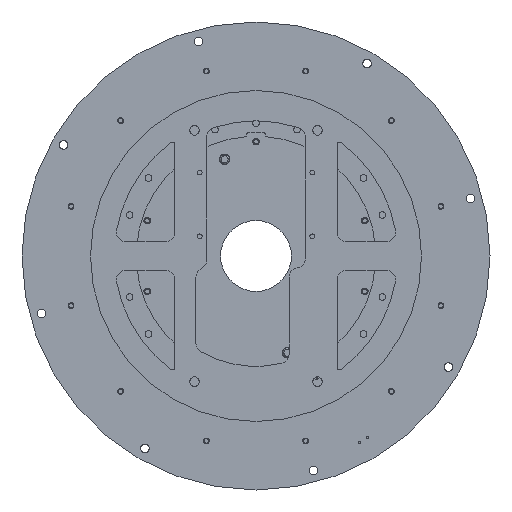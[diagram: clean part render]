
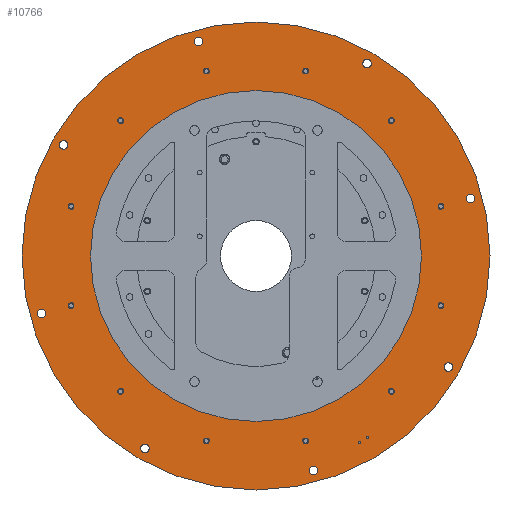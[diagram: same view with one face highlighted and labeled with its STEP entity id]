
A CAD part, front view. The second image highlights one B-rep face of the part: STEP entity #10766.
In plain terms, the highlighted planar face has unit normal (0, -1, 0).
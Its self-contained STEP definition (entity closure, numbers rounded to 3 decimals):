
#818=FACE_BOUND('',#2519,.T.);
#819=FACE_BOUND('',#2520,.T.);
#820=FACE_BOUND('',#2521,.T.);
#821=FACE_BOUND('',#2522,.T.);
#822=FACE_BOUND('',#2523,.T.);
#823=FACE_BOUND('',#2524,.T.);
#824=FACE_BOUND('',#2525,.T.);
#825=FACE_BOUND('',#2526,.T.);
#826=FACE_BOUND('',#2527,.T.);
#827=FACE_BOUND('',#2528,.T.);
#828=FACE_BOUND('',#2529,.T.);
#829=FACE_BOUND('',#2530,.T.);
#830=FACE_BOUND('',#2531,.T.);
#831=FACE_BOUND('',#2532,.T.);
#832=FACE_BOUND('',#2533,.T.);
#833=FACE_BOUND('',#2534,.T.);
#834=FACE_BOUND('',#2535,.T.);
#835=FACE_BOUND('',#2536,.T.);
#836=FACE_BOUND('',#2537,.T.);
#837=FACE_BOUND('',#2538,.T.);
#838=FACE_BOUND('',#2539,.T.);
#839=FACE_BOUND('',#2540,.T.);
#840=FACE_BOUND('',#2541,.T.);
#1022=PLANE('',#12200);
#1725=FACE_OUTER_BOUND('',#2518,.T.);
#2518=EDGE_LOOP('',(#9101));
#2519=EDGE_LOOP('',(#9102));
#2520=EDGE_LOOP('',(#9103));
#2521=EDGE_LOOP('',(#9104));
#2522=EDGE_LOOP('',(#9105));
#2523=EDGE_LOOP('',(#9106));
#2524=EDGE_LOOP('',(#9107));
#2525=EDGE_LOOP('',(#9108));
#2526=EDGE_LOOP('',(#9109));
#2527=EDGE_LOOP('',(#9110));
#2528=EDGE_LOOP('',(#9111));
#2529=EDGE_LOOP('',(#9112));
#2530=EDGE_LOOP('',(#9113));
#2531=EDGE_LOOP('',(#9114));
#2532=EDGE_LOOP('',(#9115));
#2533=EDGE_LOOP('',(#9116));
#2534=EDGE_LOOP('',(#9117));
#2535=EDGE_LOOP('',(#9118));
#2536=EDGE_LOOP('',(#9119));
#2537=EDGE_LOOP('',(#9120));
#2538=EDGE_LOOP('',(#9121));
#2539=EDGE_LOOP('',(#9122));
#2540=EDGE_LOOP('',(#9123));
#2541=EDGE_LOOP('',(#9124));
#4558=CIRCLE('',#12129,2.459);
#4560=CIRCLE('',#12132,2.459);
#4562=CIRCLE('',#12135,5.053);
#4564=CIRCLE('',#12138,5.053);
#4566=CIRCLE('',#12141,5.053);
#4568=CIRCLE('',#12144,5.053);
#4570=CIRCLE('',#12147,5.053);
#4572=CIRCLE('',#12150,5.053);
#4574=CIRCLE('',#12153,5.053);
#4576=CIRCLE('',#12156,5.053);
#4578=CIRCLE('',#12159,5.053);
#4580=CIRCLE('',#12162,5.053);
#4582=CIRCLE('',#12165,5.053);
#4584=CIRCLE('',#12168,5.053);
#4586=CIRCLE('',#12171,9.);
#4588=CIRCLE('',#12174,9.);
#4590=CIRCLE('',#12177,9.);
#4592=CIRCLE('',#12180,9.);
#4594=CIRCLE('',#12183,9.);
#4596=CIRCLE('',#12186,9.);
#4598=CIRCLE('',#12189,9.);
#4600=CIRCLE('',#12192,9.);
#4602=CIRCLE('',#12195,350.);
#4604=CIRCLE('',#12198,495.);
#5398=VERTEX_POINT('',#17983);
#5400=VERTEX_POINT('',#17989);
#5402=VERTEX_POINT('',#17995);
#5404=VERTEX_POINT('',#18001);
#5406=VERTEX_POINT('',#18007);
#5408=VERTEX_POINT('',#18013);
#5410=VERTEX_POINT('',#18019);
#5412=VERTEX_POINT('',#18025);
#5414=VERTEX_POINT('',#18031);
#5416=VERTEX_POINT('',#18037);
#5418=VERTEX_POINT('',#18043);
#5420=VERTEX_POINT('',#18049);
#5422=VERTEX_POINT('',#18055);
#5424=VERTEX_POINT('',#18061);
#5426=VERTEX_POINT('',#18067);
#5428=VERTEX_POINT('',#18073);
#5430=VERTEX_POINT('',#18079);
#5432=VERTEX_POINT('',#18085);
#5434=VERTEX_POINT('',#18091);
#5436=VERTEX_POINT('',#18097);
#5438=VERTEX_POINT('',#18103);
#5440=VERTEX_POINT('',#18109);
#5442=VERTEX_POINT('',#18115);
#5444=VERTEX_POINT('',#18121);
#6654=EDGE_CURVE('',#5398,#5398,#4558,.T.);
#6657=EDGE_CURVE('',#5400,#5400,#4560,.T.);
#6660=EDGE_CURVE('',#5402,#5402,#4562,.T.);
#6663=EDGE_CURVE('',#5404,#5404,#4564,.T.);
#6666=EDGE_CURVE('',#5406,#5406,#4566,.T.);
#6669=EDGE_CURVE('',#5408,#5408,#4568,.T.);
#6672=EDGE_CURVE('',#5410,#5410,#4570,.T.);
#6675=EDGE_CURVE('',#5412,#5412,#4572,.T.);
#6678=EDGE_CURVE('',#5414,#5414,#4574,.T.);
#6681=EDGE_CURVE('',#5416,#5416,#4576,.T.);
#6684=EDGE_CURVE('',#5418,#5418,#4578,.T.);
#6687=EDGE_CURVE('',#5420,#5420,#4580,.T.);
#6690=EDGE_CURVE('',#5422,#5422,#4582,.T.);
#6693=EDGE_CURVE('',#5424,#5424,#4584,.T.);
#6696=EDGE_CURVE('',#5426,#5426,#4586,.T.);
#6699=EDGE_CURVE('',#5428,#5428,#4588,.T.);
#6702=EDGE_CURVE('',#5430,#5430,#4590,.T.);
#6705=EDGE_CURVE('',#5432,#5432,#4592,.T.);
#6708=EDGE_CURVE('',#5434,#5434,#4594,.T.);
#6711=EDGE_CURVE('',#5436,#5436,#4596,.T.);
#6714=EDGE_CURVE('',#5438,#5438,#4598,.T.);
#6717=EDGE_CURVE('',#5440,#5440,#4600,.T.);
#6720=EDGE_CURVE('',#5442,#5442,#4602,.T.);
#6723=EDGE_CURVE('',#5444,#5444,#4604,.T.);
#9101=ORIENTED_EDGE('',*,*,#6723,.F.);
#9102=ORIENTED_EDGE('',*,*,#6654,.T.);
#9103=ORIENTED_EDGE('',*,*,#6657,.T.);
#9104=ORIENTED_EDGE('',*,*,#6660,.T.);
#9105=ORIENTED_EDGE('',*,*,#6663,.T.);
#9106=ORIENTED_EDGE('',*,*,#6666,.T.);
#9107=ORIENTED_EDGE('',*,*,#6669,.T.);
#9108=ORIENTED_EDGE('',*,*,#6672,.T.);
#9109=ORIENTED_EDGE('',*,*,#6675,.T.);
#9110=ORIENTED_EDGE('',*,*,#6678,.T.);
#9111=ORIENTED_EDGE('',*,*,#6681,.T.);
#9112=ORIENTED_EDGE('',*,*,#6684,.T.);
#9113=ORIENTED_EDGE('',*,*,#6687,.T.);
#9114=ORIENTED_EDGE('',*,*,#6690,.T.);
#9115=ORIENTED_EDGE('',*,*,#6693,.T.);
#9116=ORIENTED_EDGE('',*,*,#6696,.T.);
#9117=ORIENTED_EDGE('',*,*,#6699,.T.);
#9118=ORIENTED_EDGE('',*,*,#6702,.T.);
#9119=ORIENTED_EDGE('',*,*,#6705,.T.);
#9120=ORIENTED_EDGE('',*,*,#6708,.T.);
#9121=ORIENTED_EDGE('',*,*,#6711,.T.);
#9122=ORIENTED_EDGE('',*,*,#6714,.T.);
#9123=ORIENTED_EDGE('',*,*,#6717,.T.);
#9124=ORIENTED_EDGE('',*,*,#6720,.F.);
#10766=ADVANCED_FACE('',(#1725,#818,#819,#820,#821,#822,#823,#824,#825,
#826,#827,#828,#829,#830,#831,#832,#833,#834,#835,#836,#837,#838,#839,#840),
#1022,.F.);
#12129=AXIS2_PLACEMENT_3D('',#17985,#14688,#14689);
#12132=AXIS2_PLACEMENT_3D('',#17991,#14695,#14696);
#12135=AXIS2_PLACEMENT_3D('',#17997,#14702,#14703);
#12138=AXIS2_PLACEMENT_3D('',#18003,#14709,#14710);
#12141=AXIS2_PLACEMENT_3D('',#18009,#14716,#14717);
#12144=AXIS2_PLACEMENT_3D('',#18015,#14723,#14724);
#12147=AXIS2_PLACEMENT_3D('',#18021,#14730,#14731);
#12150=AXIS2_PLACEMENT_3D('',#18027,#14737,#14738);
#12153=AXIS2_PLACEMENT_3D('',#18033,#14744,#14745);
#12156=AXIS2_PLACEMENT_3D('',#18039,#14751,#14752);
#12159=AXIS2_PLACEMENT_3D('',#18045,#14758,#14759);
#12162=AXIS2_PLACEMENT_3D('',#18051,#14765,#14766);
#12165=AXIS2_PLACEMENT_3D('',#18057,#14772,#14773);
#12168=AXIS2_PLACEMENT_3D('',#18063,#14779,#14780);
#12171=AXIS2_PLACEMENT_3D('',#18069,#14786,#14787);
#12174=AXIS2_PLACEMENT_3D('',#18075,#14793,#14794);
#12177=AXIS2_PLACEMENT_3D('',#18081,#14800,#14801);
#12180=AXIS2_PLACEMENT_3D('',#18087,#14807,#14808);
#12183=AXIS2_PLACEMENT_3D('',#18093,#14814,#14815);
#12186=AXIS2_PLACEMENT_3D('',#18099,#14821,#14822);
#12189=AXIS2_PLACEMENT_3D('',#18105,#14828,#14829);
#12192=AXIS2_PLACEMENT_3D('',#18111,#14835,#14836);
#12195=AXIS2_PLACEMENT_3D('',#18117,#14842,#14843);
#12198=AXIS2_PLACEMENT_3D('',#18123,#14849,#14850);
#12200=AXIS2_PLACEMENT_3D('',#18125,#14853,#14854);
#14688=DIRECTION('center_axis',(0.,1.,0.));
#14689=DIRECTION('ref_axis',(1.,0.,0.));
#14695=DIRECTION('center_axis',(0.,1.,0.));
#14696=DIRECTION('ref_axis',(1.,0.,0.));
#14702=DIRECTION('center_axis',(0.,1.,0.));
#14703=DIRECTION('ref_axis',(0.,0.,1.));
#14709=DIRECTION('center_axis',(0.,1.,0.));
#14710=DIRECTION('ref_axis',(-0.866,0.,0.5));
#14716=DIRECTION('center_axis',(0.,1.,0.));
#14717=DIRECTION('ref_axis',(-0.866,0.,-0.5));
#14723=DIRECTION('center_axis',(0.,1.,0.));
#14724=DIRECTION('ref_axis',(0.,0.,-1.));
#14730=DIRECTION('center_axis',(0.,1.,0.));
#14731=DIRECTION('ref_axis',(0.866,0.,-0.5));
#14737=DIRECTION('center_axis',(0.,1.,0.));
#14738=DIRECTION('ref_axis',(0.5,0.,-0.866));
#14744=DIRECTION('center_axis',(0.,1.,0.));
#14745=DIRECTION('ref_axis',(-0.5,0.,-0.866));
#14751=DIRECTION('center_axis',(0.,1.,0.));
#14752=DIRECTION('ref_axis',(-1.,0.,0.));
#14758=DIRECTION('center_axis',(0.,1.,0.));
#14759=DIRECTION('ref_axis',(-0.5,0.,0.866));
#14765=DIRECTION('center_axis',(0.,1.,0.));
#14766=DIRECTION('ref_axis',(0.5,0.,0.866));
#14772=DIRECTION('center_axis',(0.,1.,0.));
#14773=DIRECTION('ref_axis',(1.,0.,0.));
#14779=DIRECTION('center_axis',(0.,1.,0.));
#14780=DIRECTION('ref_axis',(1.,0.,0.));
#14786=DIRECTION('center_axis',(0.,1.,0.));
#14787=DIRECTION('ref_axis',(1.,0.,0.));
#14793=DIRECTION('center_axis',(0.,1.,0.));
#14794=DIRECTION('ref_axis',(1.,0.,0.));
#14800=DIRECTION('center_axis',(0.,1.,0.));
#14801=DIRECTION('ref_axis',(1.,0.,0.));
#14807=DIRECTION('center_axis',(0.,1.,0.));
#14808=DIRECTION('ref_axis',(1.,0.,0.));
#14814=DIRECTION('center_axis',(0.,1.,0.));
#14815=DIRECTION('ref_axis',(1.,0.,0.));
#14821=DIRECTION('center_axis',(0.,1.,0.));
#14822=DIRECTION('ref_axis',(1.,0.,0.));
#14828=DIRECTION('center_axis',(0.,1.,0.));
#14829=DIRECTION('ref_axis',(1.,0.,0.));
#14835=DIRECTION('center_axis',(0.,1.,0.));
#14836=DIRECTION('ref_axis',(1.,0.,0.));
#14842=DIRECTION('center_axis',(0.,-1.,0.));
#14843=DIRECTION('ref_axis',(1.,0.,0.));
#14849=DIRECTION('center_axis',(0.,1.,0.));
#14850=DIRECTION('ref_axis',(-1.,0.,0.));
#14853=DIRECTION('center_axis',(0.,1.,0.));
#14854=DIRECTION('ref_axis',(0.,0.,1.));
#17983=CARTESIAN_POINT('',(384.369,0.,-231.995));
#17985=CARTESIAN_POINT('Origin',(386.827,0.,-231.995));
#17989=CARTESIAN_POINT('',(394.369,0.,-214.675));
#17991=CARTESIAN_POINT('Origin',(396.827,0.,-214.675));
#17995=CARTESIAN_POINT('',(391.2,0.,-109.875));
#17997=CARTESIAN_POINT('Origin',(391.2,0.,-104.822));
#18001=CARTESIAN_POINT('',(290.754,0.,283.852));
#18003=CARTESIAN_POINT('Origin',(286.378,0.,286.378));
#18007=CARTESIAN_POINT('',(-100.446,0.,393.726));
#18009=CARTESIAN_POINT('Origin',(-104.822,0.,391.2));
#18013=CARTESIAN_POINT('',(-391.2,0.,109.875));
#18015=CARTESIAN_POINT('Origin',(-391.2,0.,104.822));
#18019=CARTESIAN_POINT('',(-290.754,0.,-283.852));
#18021=CARTESIAN_POINT('Origin',(-286.378,0.,-286.378));
#18025=CARTESIAN_POINT('',(-393.726,0.,-100.446));
#18027=CARTESIAN_POINT('Origin',(-391.2,0.,-104.822));
#18031=CARTESIAN_POINT('',(-283.852,0.,290.754));
#18033=CARTESIAN_POINT('Origin',(-286.378,0.,286.378));
#18037=CARTESIAN_POINT('',(109.875,0.,391.2));
#18039=CARTESIAN_POINT('Origin',(104.822,0.,391.2));
#18043=CARTESIAN_POINT('',(393.726,0.,100.446));
#18045=CARTESIAN_POINT('Origin',(391.2,0.,104.822));
#18049=CARTESIAN_POINT('',(283.852,0.,-290.754));
#18051=CARTESIAN_POINT('Origin',(286.378,0.,-286.378));
#18055=CARTESIAN_POINT('',(99.769,0.,-391.2));
#18057=CARTESIAN_POINT('Origin',(104.822,0.,-391.2));
#18061=CARTESIAN_POINT('',(-109.875,0.,-391.2));
#18063=CARTESIAN_POINT('Origin',(-104.822,0.,-391.2));
#18067=CARTESIAN_POINT('',(461.,0.,0.));
#18069=CARTESIAN_POINT('Origin',(470.,0.,0.));
#18073=CARTESIAN_POINT('',(-9.,0.,470.));
#18075=CARTESIAN_POINT('Origin',(0.,0.,470.));
#18079=CARTESIAN_POINT('',(-479.,0.,0.));
#18081=CARTESIAN_POINT('Origin',(-470.,0.,0.));
#18085=CARTESIAN_POINT('',(-9.,0.,-470.));
#18087=CARTESIAN_POINT('Origin',(0.,0.,-470.));
#18091=CARTESIAN_POINT('',(-341.34,0.,-332.34));
#18093=CARTESIAN_POINT('Origin',(-332.34,0.,-332.34));
#18097=CARTESIAN_POINT('',(-341.34,0.,332.34));
#18099=CARTESIAN_POINT('Origin',(-332.34,0.,332.34));
#18103=CARTESIAN_POINT('',(323.34,0.,332.34));
#18105=CARTESIAN_POINT('Origin',(332.34,0.,332.34));
#18109=CARTESIAN_POINT('',(323.34,0.,-332.34));
#18111=CARTESIAN_POINT('Origin',(332.34,0.,-332.34));
#18115=CARTESIAN_POINT('',(-350.,0.,0.));
#18117=CARTESIAN_POINT('Origin',(0.,0.,0.));
#18121=CARTESIAN_POINT('',(495.,0.,0.));
#18123=CARTESIAN_POINT('Origin',(0.,0.,0.));
#18125=CARTESIAN_POINT('Origin',(0.,0.,0.));
